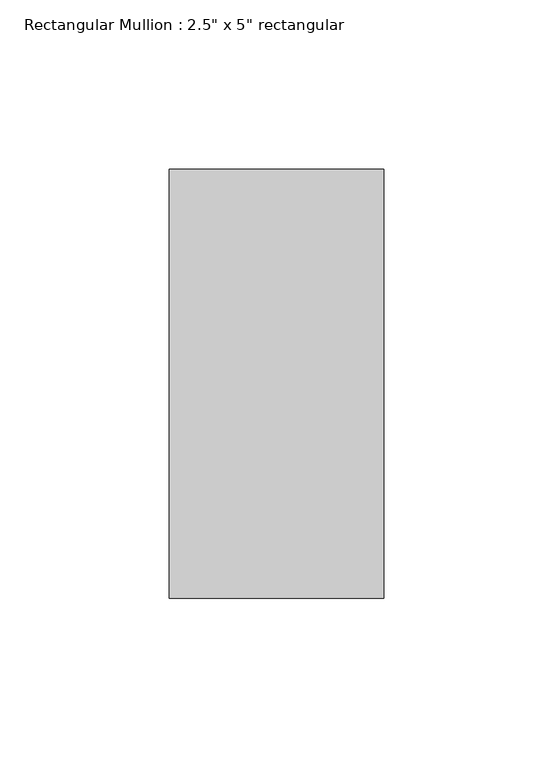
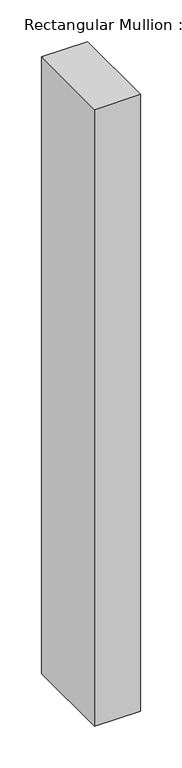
"""IFC4 building model written with IfcOpenShell, lengths in millimetres: member geometry."""

from ifc_helpers import new_model, si_unit, frame, origin, place, context, project, spatial, polyline, outline, extrude, source, transform, mapped, element, save


def member_33497832(model_context):
    return source(origin(), model_context, "Body", "SweptSolid", [
        extrude(outline(polyline([(31.75, 63.5), (31.75, -63.5), (-31.75, -63.5), (-31.75, 63.5), (31.75, 63.5)])), frame((0.0, 0.0, -901.7), z_axis=(0.0, 0.0, 1.0), x_axis=(1.0, 0.0, 0.0)), (0.0, 0.0, 1.0), 901.7),
    ])


if __name__ == "__main__":
    model = new_model("IFC4")
    model_context = context("Model", 3, world=origin())
    ifc_project = project(units=[si_unit("LENGTHUNIT", "METRE", prefix="MILLI")], contexts=[model_context])
    site = spatial("IfcSite", under=ifc_project)
    building = spatial("IfcBuilding", under=site)
    placement = place(None, origin())
    member_shape = member_33497832(model_context)
    element("IfcMember", 1, ObjectType="Rectangular Mullion : 2.5\" x 5\" rectangular", at=placement, inside=building, context=model_context, shape_type="MappedRepresentation", body=[
        mapped(member_shape, transform((0.0, 0.0, 0.0), x_axis=(1.0, 0.0, 0.0), y_axis=(0.0, 1.0, 0.0), z_axis=(0.0, 0.0, 1.0))),
    ])
    save(model, "model.ifc")
